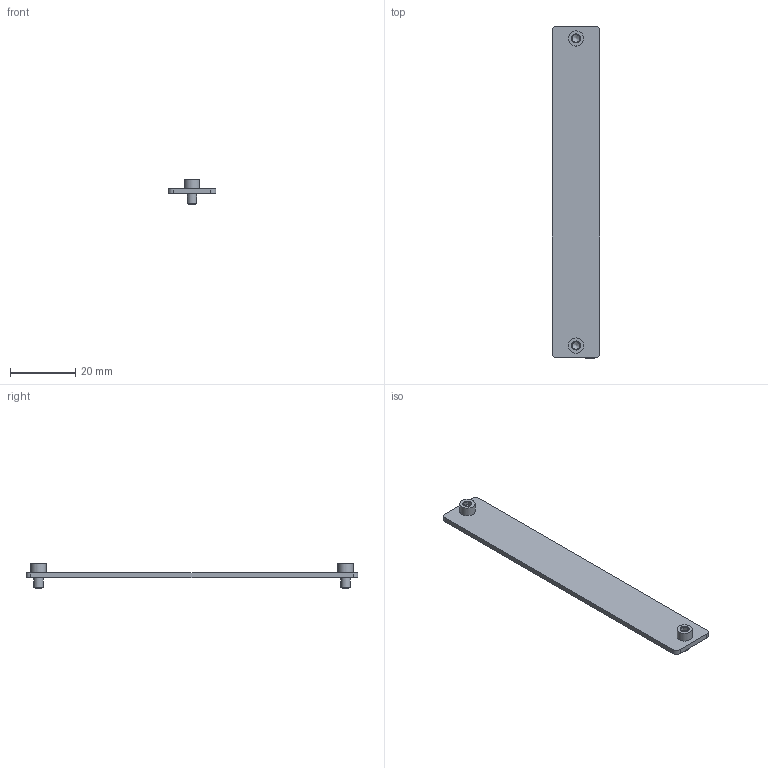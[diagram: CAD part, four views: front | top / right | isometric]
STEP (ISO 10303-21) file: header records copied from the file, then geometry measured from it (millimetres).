
FILE_DESCRIPTION(/* description */ (''),/* implementation_level */ '2;1');
FILE_NAME(/* name */ 'F:\CAD\CAD COMPLETE\web site project\Receiver Accessories\562189-RevA-STP\562189-RevA-STP.stp',/* time_stamp */ '2015-08-24T12:24:17+01:00',/* author */ ('davecooper'),/* organization */ (''),/* preprocessor_version */ 'ST-DEVELOPER v15.2',/* originating_system */ 'Autodesk Inventor 2014',/* authorisation */ '');
FILE_SCHEMA (('AUTOMOTIVE_DESIGN { 1 0 10303 214 3 1 1 }'));
Length unit declared in the file: inch
Products named in the file (1): 562189-CU
Bounding box: 14.61 x 101.6 x 7.61 mm (x, y, z)
Surface area: 3565.8 mm2 (no closed solid volume)
Topology: 0 solids, 3 shells, 52 faces, 128 edges, 84 vertices
Faces by surface type: plane 36, cylinder 10, cone 6
Full cylindrical faces by diameter (mm): 2.845 x2, 3.175 x2, 4.648 x2
Entity records: 1511 total; most frequent: CARTESIAN_POINT 293, DIRECTION 230, ORIENTED_EDGE 224, EDGE_CURVE 112, AXIS2_PLACEMENT_3D 89, VERTEX_POINT 80, EDGE_LOOP 70, LINE 52
